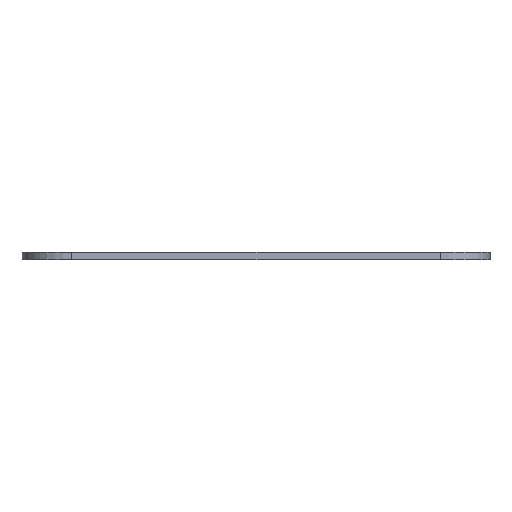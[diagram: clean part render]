
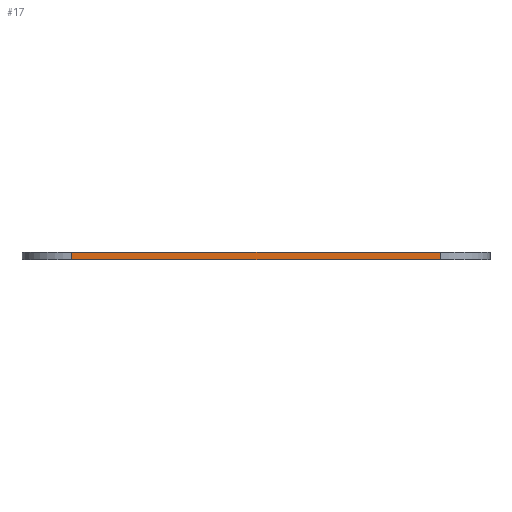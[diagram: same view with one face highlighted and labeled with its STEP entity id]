
A CAD part, left-side view. The second image highlights one B-rep face of the part: STEP entity #17.
In plain terms, the highlighted planar face has unit normal (-1, 0, 0).
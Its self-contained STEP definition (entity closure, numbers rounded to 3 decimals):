
#17 = ADVANCED_FACE('',(#18),#32,.F.);
#18 = FACE_BOUND('',#19,.F.);
#19 = EDGE_LOOP('',(#20,#55,#83,#111));
#20 = ORIENTED_EDGE('',*,*,#21,.F.);
#21 = EDGE_CURVE('',#22,#24,#26,.T.);
#22 = VERTEX_POINT('',#23);
#23 = CARTESIAN_POINT('',(-8.9,-45.,10.1));
#24 = VERTEX_POINT('',#25);
#25 = CARTESIAN_POINT('',(-8.9,-31.,10.1));
#26 = SURFACE_CURVE('',#27,(#31,#43),.PCURVE_S1.);
#27 = LINE('',#28,#29);
#28 = CARTESIAN_POINT('',(-8.9,-46.9,10.1));
#29 = VECTOR('',#30,1.);
#30 = DIRECTION('',(0.,1.,0.));
#31 = PCURVE('',#32,#37);
#32 = PLANE('',#33);
#33 = AXIS2_PLACEMENT_3D('',#34,#35,#36);
#34 = CARTESIAN_POINT('',(-8.9,-46.9,9.8));
#35 = DIRECTION('',(1.,0.,0.));
#36 = DIRECTION('',(0.,0.,1.));
#37 = DEFINITIONAL_REPRESENTATION('',(#38),#42);
#38 = LINE('',#39,#40);
#39 = CARTESIAN_POINT('',(0.3,0.));
#40 = VECTOR('',#41,1.);
#41 = DIRECTION('',(0.,-1.));
#42 = ( GEOMETRIC_REPRESENTATION_CONTEXT(2) 
PARAMETRIC_REPRESENTATION_CONTEXT() REPRESENTATION_CONTEXT('2D SPACE',''
  ) );
#43 = PCURVE('',#44,#49);
#44 = PLANE('',#45);
#45 = AXIS2_PLACEMENT_3D('',#46,#47,#48);
#46 = CARTESIAN_POINT('',(-8.9,-46.9,10.1));
#47 = DIRECTION('',(0.,0.,1.));
#48 = DIRECTION('',(1.,0.,-0.));
#49 = DEFINITIONAL_REPRESENTATION('',(#50),#54);
#50 = LINE('',#51,#52);
#51 = CARTESIAN_POINT('',(0.,0.));
#52 = VECTOR('',#53,1.);
#53 = DIRECTION('',(0.,1.));
#54 = ( GEOMETRIC_REPRESENTATION_CONTEXT(2) 
PARAMETRIC_REPRESENTATION_CONTEXT() REPRESENTATION_CONTEXT('2D SPACE',''
  ) );
#55 = ORIENTED_EDGE('',*,*,#56,.F.);
#56 = EDGE_CURVE('',#57,#22,#59,.T.);
#57 = VERTEX_POINT('',#58);
#58 = CARTESIAN_POINT('',(-8.9,-45.,9.8));
#59 = SURFACE_CURVE('',#60,(#64,#71),.PCURVE_S1.);
#60 = LINE('',#61,#62);
#61 = CARTESIAN_POINT('',(-8.9,-45.,9.8));
#62 = VECTOR('',#63,1.);
#63 = DIRECTION('',(0.,0.,1.));
#64 = PCURVE('',#32,#65);
#65 = DEFINITIONAL_REPRESENTATION('',(#66),#70);
#66 = LINE('',#67,#68);
#67 = CARTESIAN_POINT('',(0.,-1.9));
#68 = VECTOR('',#69,1.);
#69 = DIRECTION('',(1.,0.));
#70 = ( GEOMETRIC_REPRESENTATION_CONTEXT(2) 
PARAMETRIC_REPRESENTATION_CONTEXT() REPRESENTATION_CONTEXT('2D SPACE',''
  ) );
#71 = PCURVE('',#72,#77);
#72 = CYLINDRICAL_SURFACE('',#73,1.9);
#73 = AXIS2_PLACEMENT_3D('',#74,#75,#76);
#74 = CARTESIAN_POINT('',(-7.,-45.,9.8));
#75 = DIRECTION('',(0.,0.,1.));
#76 = DIRECTION('',(-1.,-0.,0.));
#77 = DEFINITIONAL_REPRESENTATION('',(#78),#82);
#78 = LINE('',#79,#80);
#79 = CARTESIAN_POINT('',(0.,0.));
#80 = VECTOR('',#81,1.);
#81 = DIRECTION('',(0.,1.));
#82 = ( GEOMETRIC_REPRESENTATION_CONTEXT(2) 
PARAMETRIC_REPRESENTATION_CONTEXT() REPRESENTATION_CONTEXT('2D SPACE',''
  ) );
#83 = ORIENTED_EDGE('',*,*,#84,.T.);
#84 = EDGE_CURVE('',#57,#85,#87,.T.);
#85 = VERTEX_POINT('',#86);
#86 = CARTESIAN_POINT('',(-8.9,-31.,9.8));
#87 = SURFACE_CURVE('',#88,(#92,#99),.PCURVE_S1.);
#88 = LINE('',#89,#90);
#89 = CARTESIAN_POINT('',(-8.9,-46.9,9.8));
#90 = VECTOR('',#91,1.);
#91 = DIRECTION('',(0.,1.,0.));
#92 = PCURVE('',#32,#93);
#93 = DEFINITIONAL_REPRESENTATION('',(#94),#98);
#94 = LINE('',#95,#96);
#95 = CARTESIAN_POINT('',(0.,0.));
#96 = VECTOR('',#97,1.);
#97 = DIRECTION('',(0.,-1.));
#98 = ( GEOMETRIC_REPRESENTATION_CONTEXT(2) 
PARAMETRIC_REPRESENTATION_CONTEXT() REPRESENTATION_CONTEXT('2D SPACE',''
  ) );
#99 = PCURVE('',#100,#105);
#100 = PLANE('',#101);
#101 = AXIS2_PLACEMENT_3D('',#102,#103,#104);
#102 = CARTESIAN_POINT('',(-8.9,-46.9,9.8));
#103 = DIRECTION('',(0.,0.,1.));
#104 = DIRECTION('',(1.,0.,-0.));
#105 = DEFINITIONAL_REPRESENTATION('',(#106),#110);
#106 = LINE('',#107,#108);
#107 = CARTESIAN_POINT('',(0.,0.));
#108 = VECTOR('',#109,1.);
#109 = DIRECTION('',(0.,1.));
#110 = ( GEOMETRIC_REPRESENTATION_CONTEXT(2) 
PARAMETRIC_REPRESENTATION_CONTEXT() REPRESENTATION_CONTEXT('2D SPACE',''
  ) );
#111 = ORIENTED_EDGE('',*,*,#112,.T.);
#112 = EDGE_CURVE('',#85,#24,#113,.T.);
#113 = SURFACE_CURVE('',#114,(#118,#125),.PCURVE_S1.);
#114 = LINE('',#115,#116);
#115 = CARTESIAN_POINT('',(-8.9,-31.,9.8));
#116 = VECTOR('',#117,1.);
#117 = DIRECTION('',(0.,0.,1.));
#118 = PCURVE('',#32,#119);
#119 = DEFINITIONAL_REPRESENTATION('',(#120),#124);
#120 = LINE('',#121,#122);
#121 = CARTESIAN_POINT('',(0.,-15.9));
#122 = VECTOR('',#123,1.);
#123 = DIRECTION('',(1.,0.));
#124 = ( GEOMETRIC_REPRESENTATION_CONTEXT(2) 
PARAMETRIC_REPRESENTATION_CONTEXT() REPRESENTATION_CONTEXT('2D SPACE',''
  ) );
#125 = PCURVE('',#126,#131);
#126 = CYLINDRICAL_SURFACE('',#127,1.9);
#127 = AXIS2_PLACEMENT_3D('',#128,#129,#130);
#128 = CARTESIAN_POINT('',(-7.,-31.,9.8));
#129 = DIRECTION('',(0.,0.,1.));
#130 = DIRECTION('',(-1.,-0.,0.));
#131 = DEFINITIONAL_REPRESENTATION('',(#132),#136);
#132 = LINE('',#133,#134);
#133 = CARTESIAN_POINT('',(6.283,0.));
#134 = VECTOR('',#135,1.);
#135 = DIRECTION('',(-0.,1.));
#136 = ( GEOMETRIC_REPRESENTATION_CONTEXT(2) 
PARAMETRIC_REPRESENTATION_CONTEXT() REPRESENTATION_CONTEXT('2D SPACE',''
  ) );
